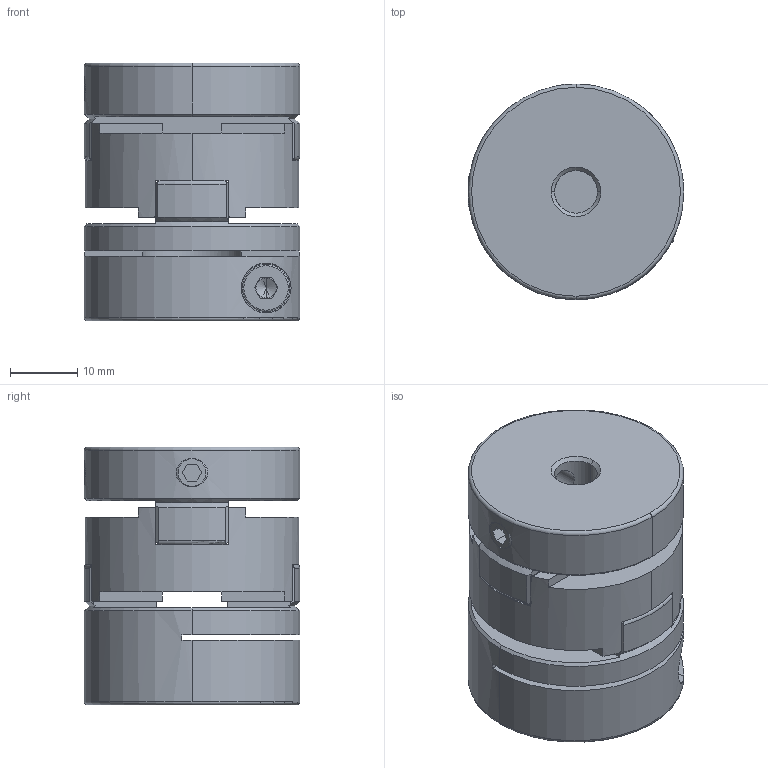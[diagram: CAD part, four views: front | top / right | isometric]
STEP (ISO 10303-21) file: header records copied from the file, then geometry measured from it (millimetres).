
FILE_DESCRIPTION (( 'STEP AP203' ), '1' );
FILE_NAME ('SOH-32SC-6.35X15_203.STEP', '2013-01-24T06:40:38', ( '' ), ( '' ), 'SwSTEP 2.0', 'SolidWorks 2012', '' );
FILE_SCHEMA (( 'CONFIG_CONTROL_DESIGN' ));
Length unit declared in the file: millimetre
Products named in the file (1): SOH-32SC-6.35X15_203
Bounding box: 32 x 32 x 38.3 mm (x, y, z)
Volume: 23082.9 mm3; surface area: 10388.7 mm2
Topology: 1 solids, 1 shells, 192 faces, 546 edges, 346 vertices
Faces by surface type: plane 97, cylinder 54, cone 22, torus 15, sphere 4
Entity records: 6751 total; most frequent: CARTESIAN_POINT 1700, ORIENTED_EDGE 1088, DIRECTION 1010, EDGE_CURVE 544, AXIS2_PLACEMENT_3D 364, VERTEX_POINT 346, LINE 282, VECTOR 282
